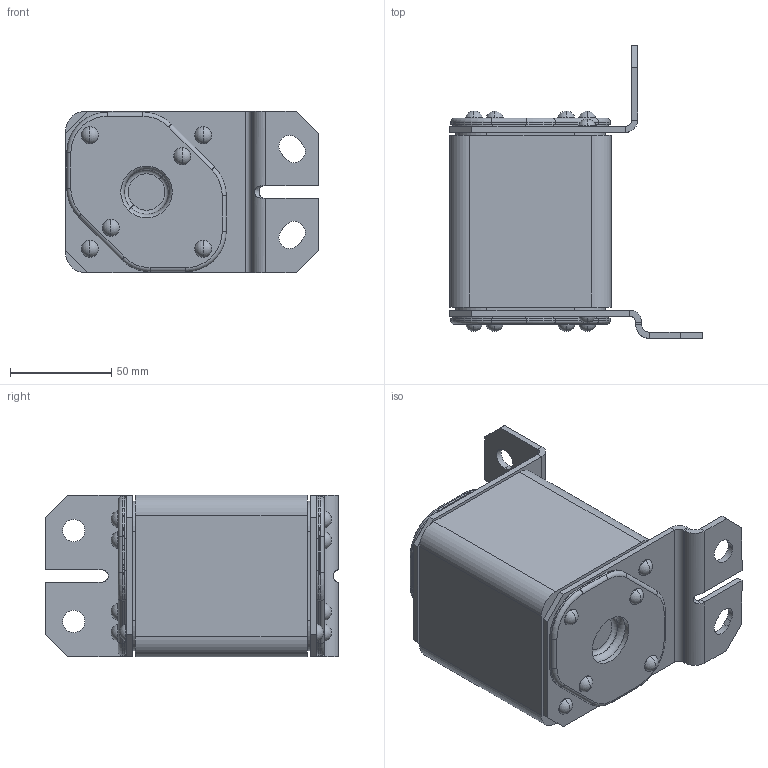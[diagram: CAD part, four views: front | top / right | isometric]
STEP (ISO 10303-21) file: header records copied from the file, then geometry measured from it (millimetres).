
FILE_DESCRIPTION (( 'STEP AP214' ), '1' );
FILE_NAME ('Ïðåäîõðàíèòåëü ÏÏ57-3998Ê0-XXXA-XXXX-ÊÝÀÇ.STEP', '2023-05-16T11:55:08', ( '' ), ( '' ), 'SwSTEP 2.0', 'SolidWorks 2018', '' );
FILE_SCHEMA (( 'AUTOMOTIVE_DESIGN' ));
Length unit declared in the file: millimetre
Products named in the file (1): Ïðåäîõðàíèòåëü ÏÏ57-3998Ê0-XXXA-XXXX-ÊÝÀÇ
Bounding box: 125 x 145 x 80 mm (x, y, z)
Volume: 635247.3 mm3; surface area: 75363.3 mm2
Topology: 1 solids, 20 shells, 459 faces, 1068 edges, 676 vertices
Faces by surface type: cylinder 179, plane 173, torus 52, cone 30, sphere 24, bspline 1
Entity records: 18602 total; most frequent: CARTESIAN_POINT 2562, DIRECTION 2500, ORIENTED_EDGE 2136, EDGE_CURVE 1068, AXIS2_PLACEMENT_3D 995, VERTEX_POINT 676, CIRCLE 536, EDGE_LOOP 522
